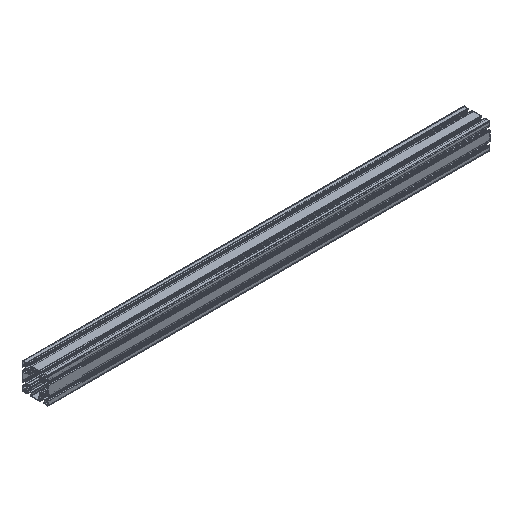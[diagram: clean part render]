
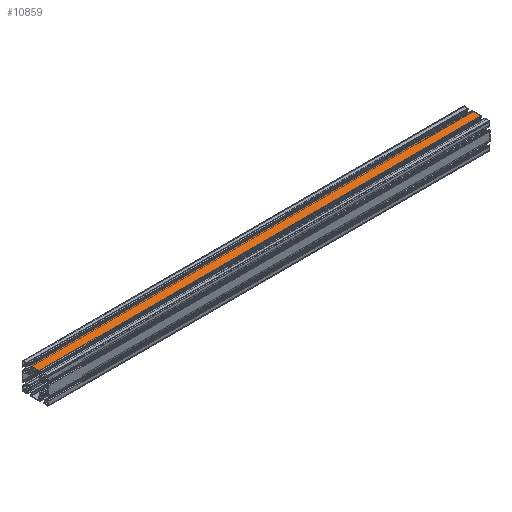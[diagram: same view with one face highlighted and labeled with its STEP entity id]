
A CAD part, isometric view. The second image highlights one B-rep face of the part: STEP entity #10859.
In plain terms, the highlighted planar face has unit normal (0, 0, 1).
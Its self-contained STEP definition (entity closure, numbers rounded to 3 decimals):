
#922 = DIRECTION ( 'NONE',  ( -1., 0., 0. ) ) ;
#1027 = CARTESIAN_POINT ( 'NONE',  ( 1000., 25.65, 15. ) ) ;
#1251 = VERTEX_POINT ( 'NONE', #2828 ) ;
#1360 = EDGE_CURVE ( 'NONE', #5371, #9711, #3729, .T. ) ;
#1459 = VECTOR ( 'NONE', #6813, 1000. ) ;
#1721 = VECTOR ( 'NONE', #2140, 1000. ) ;
#2140 = DIRECTION ( 'NONE',  ( 0., -1., 0. ) ) ;
#2727 = ORIENTED_EDGE ( 'NONE', *, *, #12556, .F. ) ;
#2828 = CARTESIAN_POINT ( 'NONE',  ( 0., 4.35, 15. ) ) ;
#3729 = LINE ( 'NONE', #6387, #4047 ) ;
#3974 = AXIS2_PLACEMENT_3D ( 'NONE', #14168, #7547, #922 ) ;
#4047 = VECTOR ( 'NONE', #14126, 1000. ) ;
#5371 = VERTEX_POINT ( 'NONE', #1027 ) ;
#5379 = EDGE_CURVE ( 'NONE', #9711, #1251, #10545, .T. ) ;
#5679 = CARTESIAN_POINT ( 'NONE',  ( 1000., 25.65, 15. ) ) ;
#6387 = CARTESIAN_POINT ( 'NONE',  ( 1000., 25.65, 15. ) ) ;
#6521 = VECTOR ( 'NONE', #9682, 1000. ) ;
#6813 = DIRECTION ( 'NONE',  ( 0., -1., 0. ) ) ;
#6908 = VERTEX_POINT ( 'NONE', #12535 ) ;
#7547 = DIRECTION ( 'NONE',  ( 0., 0., -1. ) ) ;
#8575 = CARTESIAN_POINT ( 'NONE',  ( 1000., 4.35, 15. ) ) ;
#8779 = CARTESIAN_POINT ( 'NONE',  ( 0., 25.65, 15. ) ) ;
#9120 = FACE_OUTER_BOUND ( 'NONE', #10928, .T. ) ;
#9682 = DIRECTION ( 'NONE',  ( -1., 0., 0. ) ) ;
#9711 = VERTEX_POINT ( 'NONE', #9814 ) ;
#9814 = CARTESIAN_POINT ( 'NONE',  ( 0., 25.65, 15. ) ) ;
#9929 = ORIENTED_EDGE ( 'NONE', *, *, #10824, .F. ) ;
#10497 = LINE ( 'NONE', #8575, #6521 ) ;
#10545 = LINE ( 'NONE', #8779, #1721 ) ;
#10631 = LINE ( 'NONE', #5679, #1459 ) ;
#10824 = EDGE_CURVE ( 'NONE', #6908, #1251, #10497, .T. ) ;
#10826 = PLANE ( 'NONE',  #3974 ) ;
#10859 = ADVANCED_FACE ( 'NONE', ( #9120 ), #10826, .F. ) ;
#10906 = ORIENTED_EDGE ( 'NONE', *, *, #1360, .T. ) ;
#10928 = EDGE_LOOP ( 'NONE', ( #11645, #9929, #2727, #10906 ) ) ;
#11645 = ORIENTED_EDGE ( 'NONE', *, *, #5379, .T. ) ;
#12535 = CARTESIAN_POINT ( 'NONE',  ( 1000., 4.35, 15. ) ) ;
#12556 = EDGE_CURVE ( 'NONE', #5371, #6908, #10631, .T. ) ;
#14126 = DIRECTION ( 'NONE',  ( -1., 0., 0. ) ) ;
#14168 = CARTESIAN_POINT ( 'NONE',  ( 1000., 25.65, 15. ) ) ;
